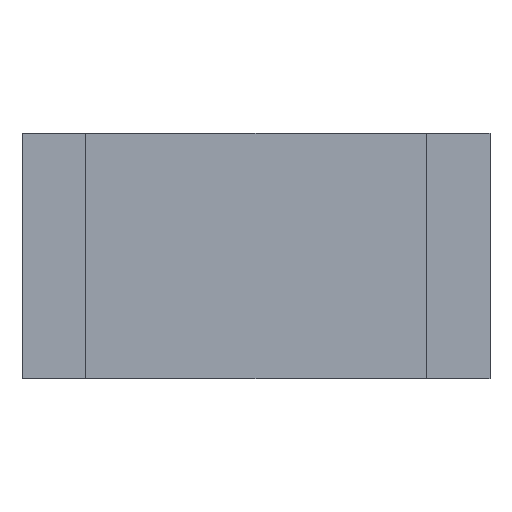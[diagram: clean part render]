
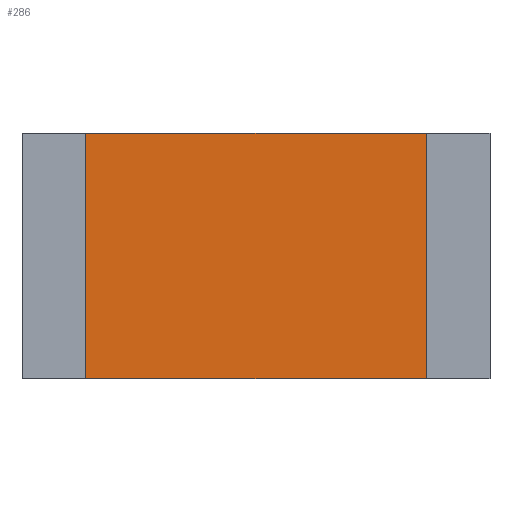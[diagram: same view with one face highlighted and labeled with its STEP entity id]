
A CAD part, top view. The second image highlights one B-rep face of the part: STEP entity #286.
In plain terms, the highlighted planar face has unit normal (0, 0, 1).
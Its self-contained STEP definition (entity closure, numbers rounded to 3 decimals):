
#286=ADVANCED_FACE('',(#458),#460,.T.);
#458=FACE_BOUND('',#459,.T.);
#459=EDGE_LOOP('',(#560,#561,#562,#563));
#460=PLANE('',#461);
#461=AXIS2_PLACEMENT_3D('',#462,#463,#464);
#462=CARTESIAN_POINT('',(0.,0.,1.3));
#463=DIRECTION('',(0.,0.,1.));
#464=DIRECTION('',(-1.,0.,0.));
#560=ORIENTED_EDGE('',*,*,#606,.T.);
#561=ORIENTED_EDGE('',*,*,#610,.T.);
#562=ORIENTED_EDGE('',*,*,#613,.T.);
#563=ORIENTED_EDGE('',*,*,#615,.T.);
#606=EDGE_CURVE('',#681,#679,#682,.T.);
#610=EDGE_CURVE('',#679,#686,#688,.T.);
#613=EDGE_CURVE('',#686,#691,#693,.T.);
#615=EDGE_CURVE('',#691,#681,#695,.T.);
#679=VERTEX_POINT('',#833);
#681=VERTEX_POINT('',#837);
#682=LINE('',#838,#839);
#686=VERTEX_POINT('',#848);
#688=LINE('',#852,#853);
#691=VERTEX_POINT('',#859);
#693=LINE('',#863,#864);
#695=LINE('',#869,#870);
#833=CARTESIAN_POINT('',(5.35,3.85,1.3));
#837=CARTESIAN_POINT('',(5.35,-3.85,1.3));
#838=CARTESIAN_POINT('',(5.35,-3.85,1.3));
#839=VECTOR('',#840,1.);
#840=DIRECTION('',(0.,1.,0.));
#848=CARTESIAN_POINT('',(-5.35,3.85,1.3));
#852=CARTESIAN_POINT('',(5.35,3.85,1.3));
#853=VECTOR('',#854,1.);
#854=DIRECTION('',(-1.,0.,0.));
#859=CARTESIAN_POINT('',(-5.35,-3.85,1.3));
#863=CARTESIAN_POINT('',(-5.35,3.85,1.3));
#864=VECTOR('',#865,1.);
#865=DIRECTION('',(0.,-1.,0.));
#869=CARTESIAN_POINT('',(-5.35,-3.85,1.3));
#870=VECTOR('',#871,1.);
#871=DIRECTION('',(1.,0.,0.));
